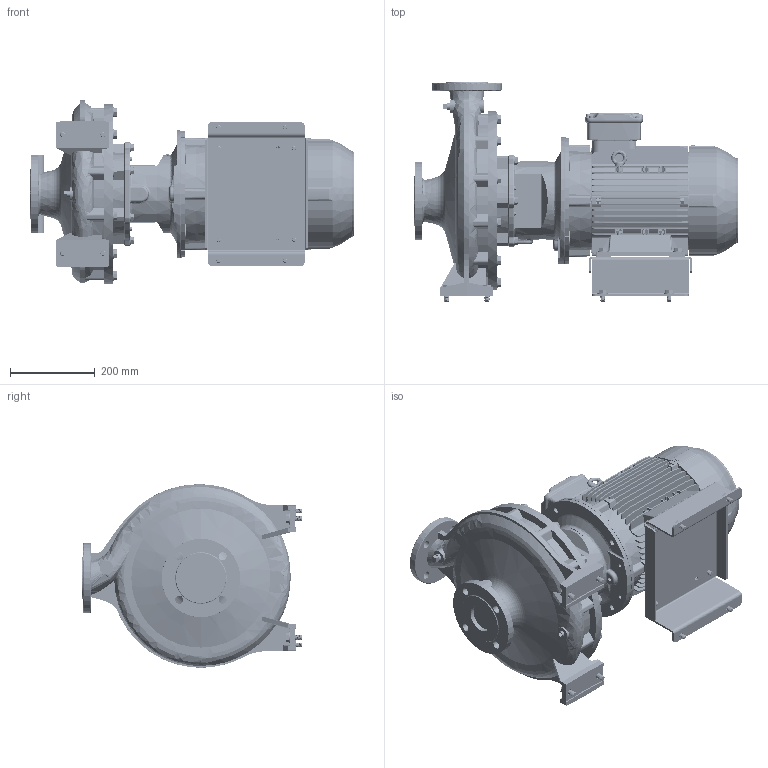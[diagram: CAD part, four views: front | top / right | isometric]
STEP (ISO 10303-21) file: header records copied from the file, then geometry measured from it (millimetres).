
FILE_DESCRIPTION (( 'STEP AP214' ), '1' );
FILE_NAME ('GSD4 50-315_7.5_(132M)_W21.STEP', '2026-06-18T06:32:50', ( '' ), ( '' ), 'SwSTEP 2.0', 'SolidWorks 2024', '' );
FILE_SCHEMA (( 'AUTOMOTIVE_DESIGN' ));
Length unit declared in the file: millimetre
Products named in the file (9): Parametric Flat Washer_M12; Parametric bolt_SFT-A253B; 140_178 x 93 BP - CGSDA-5244; GSD4 50-315_7.5_(132M)_W21; Parametric Flat Washer_M10; 50-315-132M_ﾃﾞﾌｫﾙﾄ; 132M ALIE3_W21T_B35; Parametric bolt_SFT-A249B; Parametric bolt_SFT-A299B
Assembly tree (27 placements, depth 2):
  GSD4 50-315_7.5_(132M)_W21
    50-315-132M_ﾃﾞﾌｫﾙﾄ
    140_178 x 93 BP - CGSDA-5244
    Parametric bolt_SFT-A253B  x4
    Parametric bolt_SFT-A249B  x4
    Parametric bolt_SFT-A299B  x4
    Parametric Flat Washer_M12  x4
    Parametric Flat Washer_M10  x8
    132M ALIE3_W21T_B35
Bounding box: 764.8 x 518 x 432.57 mm (x, y, z)
Volume: 36986437.8 mm3; surface area: 2463721.9 mm2
Topology: 37 solids, 37 shells, 5360 faces, 13934 edges, 8969 vertices
Faces by surface type: plane 3067, cylinder 1347, torus 318, bspline 302, cone 294, sphere 32
Entity records: 188059 total; most frequent: CARTESIAN_POINT 71813, ORIENTED_EDGE 25220, DIRECTION 22427, EDGE_CURVE 12610, VERTEX_POINT 8129, VECTOR 8101, LINE 8101, AXIS2_PLACEMENT_3D 7163
